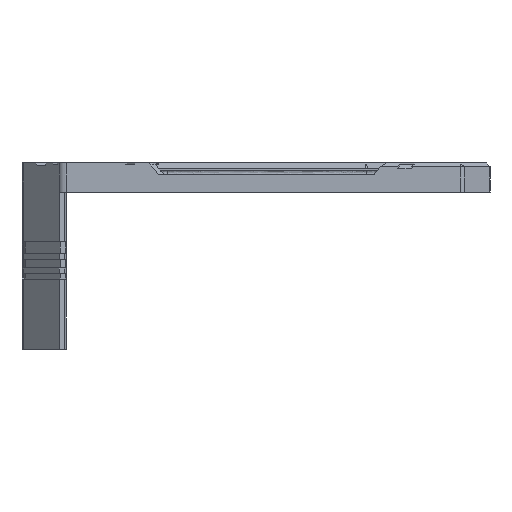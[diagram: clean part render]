
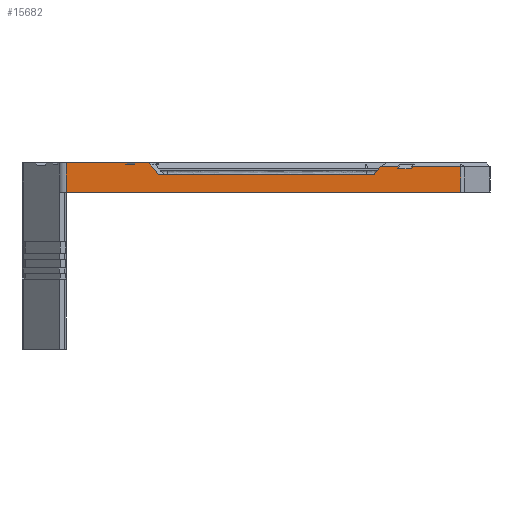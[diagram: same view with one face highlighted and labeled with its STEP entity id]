
A CAD part, left-side view. The second image highlights one B-rep face of the part: STEP entity #15682.
In plain terms, the highlighted planar face has unit normal (-1, 0, 0).
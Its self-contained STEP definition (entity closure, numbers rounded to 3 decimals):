
#1734=DIRECTION('',(0.,-1.,0.));
#1735=VECTOR('',#1734,15.411);
#1736=CARTESIAN_POINT('',(-165.,49.107,3.8));
#1737=LINE('',#1736,#1735);
#1791=DIRECTION('',(0.,-1.,0.));
#1792=VECTOR('',#1791,3.494);
#1793=CARTESIAN_POINT('',(-165.,31.858,3.8));
#1794=LINE('',#1793,#1792);
#3214=DIRECTION('',(0.,0.647,0.763));
#3215=VECTOR('',#3214,3.934);
#3216=CARTESIAN_POINT('',(-165.,25.82,0.8));
#3217=LINE('',#3216,#3215);
#4282=DIRECTION('',(0.,1.,0.));
#4283=VECTOR('',#4282,53.914);
#4284=CARTESIAN_POINT('',(-165.,-28.094,0.8));
#4285=LINE('',#4284,#4283);
#5148=DIRECTION('',(0.,-1.,0.));
#5149=VECTOR('',#5148,99.204);
#5150=CARTESIAN_POINT('',(-165.,49.107,-3.6));
#5151=LINE('',#5150,#5149);
#6206=DIRECTION('',(0.,-1.,0.));
#6207=VECTOR('',#6206,12.489);
#6208=CARTESIAN_POINT('',(-165.,-37.608,2.8));
#6209=LINE('',#6208,#6207);
#6213=DIRECTION('',(0.,0.,1.));
#6214=VECTOR('',#6213,7.4);
#6215=CARTESIAN_POINT('',(-165.,49.107,-3.6));
#6216=LINE('',#6215,#6214);
#6220=DIRECTION('',(0.,0.,-1.));
#6221=VECTOR('',#6220,0.4);
#6222=CARTESIAN_POINT('',(-165.,33.696,3.8));
#6223=LINE('',#6222,#6221);
#6227=DIRECTION('',(0.,-1.,0.));
#6228=VECTOR('',#6227,1.837);
#6229=CARTESIAN_POINT('',(-165.,33.696,3.4));
#6230=LINE('',#6229,#6228);
#6234=DIRECTION('',(0.,0.,-1.));
#6235=VECTOR('',#6234,0.4);
#6236=CARTESIAN_POINT('',(-165.,31.858,3.8));
#6237=LINE('',#6236,#6235);
#6241=DIRECTION('',(0.,-1.,0.));
#6242=VECTOR('',#6241,4.408);
#6243=CARTESIAN_POINT('',(-165.,-29.79,2.8));
#6244=LINE('',#6243,#6242);
#6248=DIRECTION('',(0.,0.,-1.));
#6249=VECTOR('',#6248,0.5);
#6250=CARTESIAN_POINT('',(-165.,-34.198,2.8));
#6251=LINE('',#6250,#6249);
#6255=DIRECTION('',(0.,1.,0.));
#6256=VECTOR('',#6255,3.41);
#6257=CARTESIAN_POINT('',(-165.,-37.608,2.3));
#6258=LINE('',#6257,#6256);
#6262=DIRECTION('',(0.,0.,-1.));
#6263=VECTOR('',#6262,0.5);
#6264=CARTESIAN_POINT('',(-165.,-37.608,2.8));
#6265=LINE('',#6264,#6263);
#6388=DIRECTION('',(0.,0.647,-0.763));
#6389=VECTOR('',#6388,2.622);
#6390=CARTESIAN_POINT('',(-165.,-29.79,2.8));
#6391=LINE('',#6390,#6389);
#6488=DIRECTION('',(0.,0.,1.));
#6489=VECTOR('',#6488,6.4);
#6490=CARTESIAN_POINT('',(-165.,-50.096,-3.6));
#6491=LINE('',#6490,#6489);
#9391=CARTESIAN_POINT('',(-165.,-50.096,-3.6));
#9393=VERTEX_POINT('',#9391);
#9563=CARTESIAN_POINT('',(-165.,49.107,-3.6));
#9565=VERTEX_POINT('',#9563);
#9576=CARTESIAN_POINT('',(-165.,49.107,3.8));
#9578=VERTEX_POINT('',#9576);
#9643=CARTESIAN_POINT('',(-165.,33.696,3.4));
#9644=CARTESIAN_POINT('',(-165.,31.858,3.4));
#9645=VERTEX_POINT('',#9643);
#9646=VERTEX_POINT('',#9644);
#9647=CARTESIAN_POINT('',(-165.,33.696,3.8));
#9648=VERTEX_POINT('',#9647);
#9649=CARTESIAN_POINT('',(-165.,31.858,3.8));
#9650=VERTEX_POINT('',#9649);
#10598=CARTESIAN_POINT('',(-165.,-28.094,0.8));
#10600=VERTEX_POINT('',#10598);
#10607=CARTESIAN_POINT('',(-165.,25.82,0.8));
#10608=CARTESIAN_POINT('',(-165.,28.364,3.8));
#10609=VERTEX_POINT('',#10607);
#10610=VERTEX_POINT('',#10608);
#10849=CARTESIAN_POINT('',(-165.,-50.096,2.8));
#10850=VERTEX_POINT('',#10849);
#10853=CARTESIAN_POINT('',(-165.,-37.608,2.8));
#10854=VERTEX_POINT('',#10853);
#10859=CARTESIAN_POINT('',(-165.,-37.608,2.3));
#10860=CARTESIAN_POINT('',(-165.,-34.198,2.3));
#10861=VERTEX_POINT('',#10859);
#10862=VERTEX_POINT('',#10860);
#10863=CARTESIAN_POINT('',(-165.,-34.198,2.8));
#10864=VERTEX_POINT('',#10863);
#10865=CARTESIAN_POINT('',(-165.,-29.79,2.8));
#10866=VERTEX_POINT('',#10865);
#15650=CARTESIAN_POINT('',(-165.,50.101,1.4));
#15651=DIRECTION('',(-1.,0.,0.));
#15652=DIRECTION('',(0.,-1.,0.));
#15653=AXIS2_PLACEMENT_3D('',#15650,#15651,#15652);
#15654=PLANE('',#15653);
#15656=ORIENTED_EDGE('',*,*,#15655,.T.);
#15658=ORIENTED_EDGE('',*,*,#15657,.F.);
#15659=ORIENTED_EDGE('',*,*,#14628,.F.);
#15660=ORIENTED_EDGE('',*,*,#15644,.T.);
#15661=ORIENTED_EDGE('',*,*,#12264,.T.);
#15663=ORIENTED_EDGE('',*,*,#15662,.T.);
#15664=ORIENTED_EDGE('',*,*,#12778,.T.);
#15666=ORIENTED_EDGE('',*,*,#15665,.F.);
#15667=ORIENTED_EDGE('',*,*,#12287,.T.);
#15668=ORIENTED_EDGE('',*,*,#13129,.F.);
#15669=ORIENTED_EDGE('',*,*,#13776,.F.);
#15671=ORIENTED_EDGE('',*,*,#15670,.F.);
#15673=ORIENTED_EDGE('',*,*,#15672,.T.);
#15675=ORIENTED_EDGE('',*,*,#15674,.T.);
#15677=ORIENTED_EDGE('',*,*,#15676,.F.);
#15679=ORIENTED_EDGE('',*,*,#15678,.F.);
#15680=EDGE_LOOP('',(#15656,#15658,#15659,#15660,#15661,#15663,#15664,#15666,
#15667,#15668,#15669,#15671,#15673,#15675,#15677,#15679));
#15681=FACE_OUTER_BOUND('',#15680,.F.);
#12264=EDGE_CURVE('',#9578,#9648,#1737,.T.);
#12287=EDGE_CURVE('',#9650,#10610,#1794,.T.);
#12778=EDGE_CURVE('',#9645,#9646,#6230,.T.);
#13129=EDGE_CURVE('',#10609,#10610,#3217,.T.);
#13776=EDGE_CURVE('',#10600,#10609,#4285,.T.);
#14628=EDGE_CURVE('',#9565,#9393,#5151,.T.);
#15644=EDGE_CURVE('',#9565,#9578,#6216,.T.);
#15655=EDGE_CURVE('',#10854,#10850,#6209,.T.);
#15657=EDGE_CURVE('',#9393,#10850,#6491,.T.);
#15662=EDGE_CURVE('',#9648,#9645,#6223,.T.);
#15665=EDGE_CURVE('',#9650,#9646,#6237,.T.);
#15670=EDGE_CURVE('',#10866,#10600,#6391,.T.);
#15672=EDGE_CURVE('',#10866,#10864,#6244,.T.);
#15674=EDGE_CURVE('',#10864,#10862,#6251,.T.);
#15676=EDGE_CURVE('',#10861,#10862,#6258,.T.);
#15678=EDGE_CURVE('',#10854,#10861,#6265,.T.);
#15682=ADVANCED_FACE('',(#15681),#15654,.T.);
